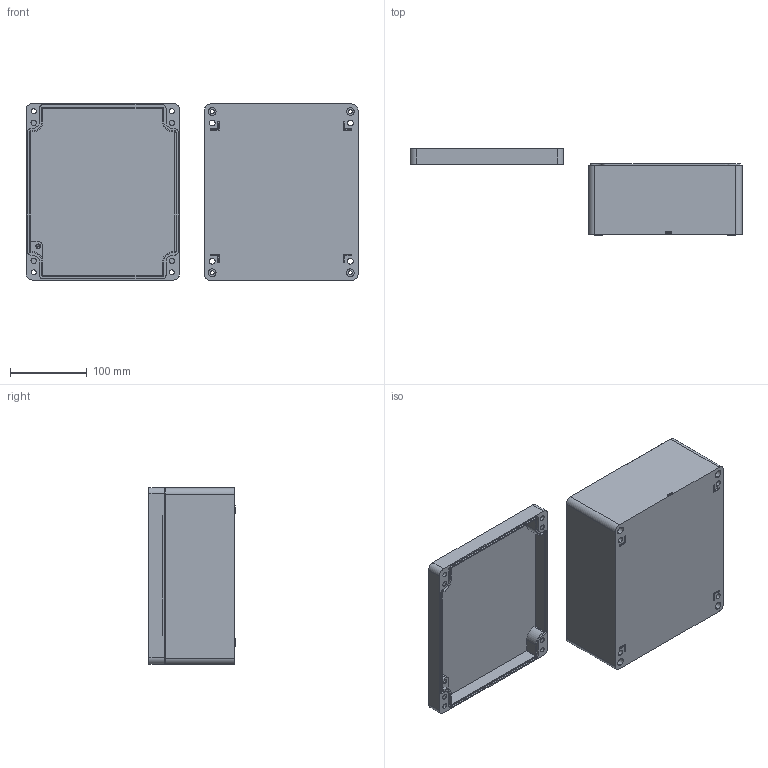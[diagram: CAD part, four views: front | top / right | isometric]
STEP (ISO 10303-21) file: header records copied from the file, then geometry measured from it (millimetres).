
FILE_DESCRIPTION (( 'STEP AP203' ), '1' );
FILE_NAME ('ZX-AL-202311_装配体.STEP', '2022-01-24T09:15:24', ( '微软用户' ), ( '微软中国' ), 'SwSTEP 2.0', 'SolidWorks 2020', '' );
FILE_SCHEMA (( 'CONFIG_CONTROL_DESIGN' ));
Length unit declared in the file: millimetre
Products named in the file (3): ZX-AL-202311_蚾饜极; ZX-AL-202311_狟; ZX-AL-202311_奻
Assembly tree (2 placements, depth 2):
  ZX-AL-202311_蚾饜极
    ZX-AL-202311_狟
    ZX-AL-202311_奻
Bounding box: 432.64 x 112.21 x 230.47 mm (x, y, z)
Volume: 873318.3 mm3; surface area: 392595.9 mm2
Topology: 2 solids, 2 shells, 713 faces, 1906 edges, 1225 vertices
Faces by surface type: plane 342, cylinder 180, bspline 123, cone 68
Entity records: 27835 total; most frequent: CARTESIAN_POINT 10470, ORIENTED_EDGE 3752, DIRECTION 3146, EDGE_CURVE 1876, LINE 1256, VECTOR 1256, VERTEX_POINT 1225, AXIS2_PLACEMENT_3D 945
